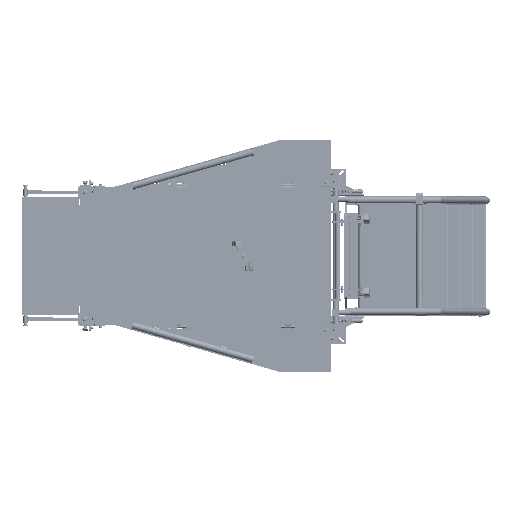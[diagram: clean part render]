
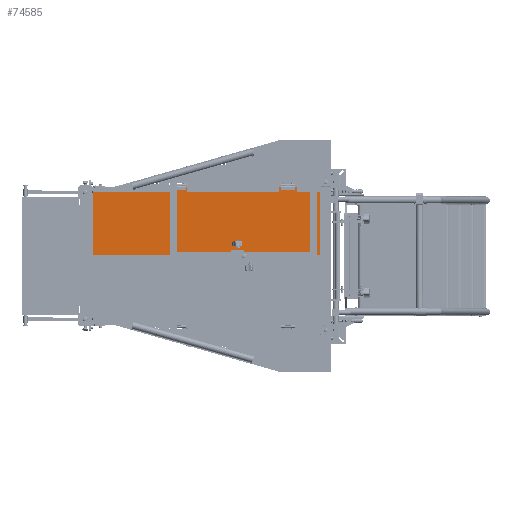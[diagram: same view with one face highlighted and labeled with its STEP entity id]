
A CAD part, top view. The second image highlights one B-rep face of the part: STEP entity #74585.
In plain terms, the highlighted planar face has unit normal (0, 0, 1).
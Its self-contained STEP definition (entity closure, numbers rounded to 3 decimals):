
#73994=CARTESIAN_POINT('',(-188.,191.,
5.));
#73995=DIRECTION('',(0.,0.,1.));
#73996=DIRECTION('',(-0.98,0.2,0.));
#73997=AXIS2_PLACEMENT_3D('',#73994,#73995,#73996);
#74002=CARTESIAN_POINT('',(-188.,192.,5.));
#74003=DIRECTION('',(0.,0.,1.));
#74004=DIRECTION('',(0.98,-0.2,0.));
#74005=AXIS2_PLACEMENT_3D('',#74002,#74003,#74004);
#74010=CARTESIAN_POINT('',(-140.,191.,
5.));
#74011=DIRECTION('',(0.,0.,1.));
#74012=DIRECTION('',(-0.98,0.2,0.));
#74013=AXIS2_PLACEMENT_3D('',#74010,#74011,#74012);
#74018=CARTESIAN_POINT('',(-140.,192.,5.));
#74019=DIRECTION('',(0.,0.,1.));
#74020=DIRECTION('',(0.98,-0.2,0.));
#74021=AXIS2_PLACEMENT_3D('',#74018,#74019,#74020);
#74026=CARTESIAN_POINT('',(498.5,191.,5.));
#74027=DIRECTION('',(0.,0.,1.));
#74028=DIRECTION('',(-0.98,0.2,0.));
#74029=AXIS2_PLACEMENT_3D('',#74026,#74027,#74028);
#74034=CARTESIAN_POINT('',(498.5,192.,5.));
#74035=DIRECTION('',(0.,0.,1.));
#74036=DIRECTION('',(0.98,-0.2,0.));
#74037=AXIS2_PLACEMENT_3D('',#74034,#74035,#74036);
#74042=CARTESIAN_POINT('',(450.5,191.,5.));
#74043=DIRECTION('',(0.,0.,1.));
#74044=DIRECTION('',(-0.98,0.2,0.));
#74045=AXIS2_PLACEMENT_3D('',#74042,#74043,#74044);
#74050=CARTESIAN_POINT('',(450.5,192.,5.));
#74051=DIRECTION('',(0.,0.,1.));
#74052=DIRECTION('',(0.98,-0.2,0.));
#74053=AXIS2_PLACEMENT_3D('',#74050,#74051,#74052);
#74065=DIRECTION('',(0.,1.,0.));
#74066=VECTOR('',#74065,372.);
#74067=CARTESIAN_POINT('',(-662.5,-198.5,5.));
#74068=LINE('',#74067,#74066);
#74079=DIRECTION('',(1.,0.,0.));
#74080=VECTOR('',#74079,448.5);
#74081=CARTESIAN_POINT('',(-662.5,173.5,5.));
#74082=LINE('',#74081,#74080);
#74093=DIRECTION('',(0.,1.,0.));
#74094=VECTOR('',#74093,25.);
#74095=CARTESIAN_POINT('',(-214.,173.5,5.));
#74096=LINE('',#74095,#74094);
#74107=DIRECTION('',(1.,0.,0.));
#74108=VECTOR('',#74107,100.);
#74109=CARTESIAN_POINT('',(-214.,198.5,5.));
#74110=LINE('',#74109,#74108);
#74121=DIRECTION('',(0.,-1.,0.));
#74122=VECTOR('',#74121,25.);
#74123=CARTESIAN_POINT('',(-114.,198.5,5.));
#74124=LINE('',#74123,#74122);
#74135=DIRECTION('',(1.,0.,0.));
#74136=VECTOR('',#74135,538.5);
#74137=CARTESIAN_POINT('',(-114.,173.5,5.));
#74138=LINE('',#74137,#74136);
#74149=DIRECTION('',(0.,1.,0.));
#74150=VECTOR('',#74149,25.);
#74151=CARTESIAN_POINT('',(424.5,173.5,5.));
#74152=LINE('',#74151,#74150);
#74163=DIRECTION('',(1.,0.,0.));
#74164=VECTOR('',#74163,100.);
#74165=CARTESIAN_POINT('',(424.5,198.5,5.));
#74166=LINE('',#74165,#74164);
#74177=DIRECTION('',(0.,-1.,0.));
#74178=VECTOR('',#74177,25.);
#74179=CARTESIAN_POINT('',(524.5,198.5,5.));
#74180=LINE('',#74179,#74178);
#74191=DIRECTION('',(1.,0.,0.));
#74192=VECTOR('',#74191,138.);
#74193=CARTESIAN_POINT('',(524.5,173.5,5.));
#74194=LINE('',#74193,#74192);
#74205=DIRECTION('',(0.,-1.,0.));
#74206=VECTOR('',#74205,372.);
#74207=CARTESIAN_POINT('',(662.5,173.5,5.));
#74208=LINE('',#74207,#74206);
#74219=DIRECTION('',(-1.,0.,0.));
#74220=VECTOR('',#74219,1325.);
#74221=CARTESIAN_POINT('',(662.5,-198.5,5.));
#74222=LINE('',#74221,#74220);
#74446=CARTESIAN_POINT('',(-190.449,191.5,
5.));
#74447=CARTESIAN_POINT('',(-185.551,191.5,
5.));
#74448=VERTEX_POINT('',#74446);
#74449=VERTEX_POINT('',#74447);
#74450=CARTESIAN_POINT('',(-142.449,191.5,5.));
#74451=CARTESIAN_POINT('',(-137.551,191.5,
5.));
#74452=VERTEX_POINT('',#74450);
#74453=VERTEX_POINT('',#74451);
#74454=CARTESIAN_POINT('',(496.051,191.5,5.));
#74455=CARTESIAN_POINT('',(500.949,191.5,5.));
#74456=VERTEX_POINT('',#74454);
#74457=VERTEX_POINT('',#74455);
#74458=CARTESIAN_POINT('',(-662.5,-198.5,5.));
#74459=CARTESIAN_POINT('',(-662.5,173.5,5.));
#74460=VERTEX_POINT('',#74458);
#74461=VERTEX_POINT('',#74459);
#74462=CARTESIAN_POINT('',(662.5,-198.5,5.));
#74463=VERTEX_POINT('',#74462);
#74464=CARTESIAN_POINT('',(662.5,173.5,5.));
#74465=VERTEX_POINT('',#74464);
#74466=CARTESIAN_POINT('',(524.5,173.5,5.));
#74467=VERTEX_POINT('',#74466);
#74468=CARTESIAN_POINT('',(524.5,198.5,5.));
#74469=VERTEX_POINT('',#74468);
#74470=CARTESIAN_POINT('',(424.5,198.5,5.));
#74471=VERTEX_POINT('',#74470);
#74472=CARTESIAN_POINT('',(424.5,173.5,5.));
#74473=VERTEX_POINT('',#74472);
#74474=CARTESIAN_POINT('',(-114.,173.5,5.));
#74475=VERTEX_POINT('',#74474);
#74476=CARTESIAN_POINT('',(-114.,198.5,5.));
#74477=VERTEX_POINT('',#74476);
#74478=CARTESIAN_POINT('',(-214.,198.5,5.));
#74479=VERTEX_POINT('',#74478);
#74480=CARTESIAN_POINT('',(-214.,173.5,5.));
#74481=VERTEX_POINT('',#74480);
#74482=CARTESIAN_POINT('',(448.051,191.5,5.));
#74483=CARTESIAN_POINT('',(452.949,191.5,5.));
#74484=VERTEX_POINT('',#74482);
#74485=VERTEX_POINT('',#74483);
#74530=CARTESIAN_POINT('',(0.,0.,5.));
#74531=DIRECTION('',(0.,0.,1.));
#74532=DIRECTION('',(1.,0.,0.));
#74533=AXIS2_PLACEMENT_3D('',#74530,#74531,#74532);
#74534=PLANE('',#74533);
#74536=ORIENTED_EDGE('',*,*,#74535,.T.);
#74538=ORIENTED_EDGE('',*,*,#74537,.T.);
#74540=ORIENTED_EDGE('',*,*,#74539,.T.);
#74542=ORIENTED_EDGE('',*,*,#74541,.T.);
#74544=ORIENTED_EDGE('',*,*,#74543,.T.);
#74546=ORIENTED_EDGE('',*,*,#74545,.T.);
#74548=ORIENTED_EDGE('',*,*,#74547,.T.);
#74550=ORIENTED_EDGE('',*,*,#74549,.T.);
#74552=ORIENTED_EDGE('',*,*,#74551,.T.);
#74554=ORIENTED_EDGE('',*,*,#74553,.T.);
#74556=ORIENTED_EDGE('',*,*,#74555,.T.);
#74558=ORIENTED_EDGE('',*,*,#74557,.T.);
#74559=EDGE_LOOP('',(#74536,#74538,#74540,#74542,#74544,#74546,#74548,#74550,
#74552,#74554,#74556,#74558));
#74560=FACE_OUTER_BOUND('',#74559,.F.);
#74562=ORIENTED_EDGE('',*,*,#74561,.T.);
#74564=ORIENTED_EDGE('',*,*,#74563,.T.);
#74565=EDGE_LOOP('',(#74562,#74564));
#74566=FACE_BOUND('',#74565,.F.);
#74568=ORIENTED_EDGE('',*,*,#74567,.T.);
#74570=ORIENTED_EDGE('',*,*,#74569,.T.);
#74571=EDGE_LOOP('',(#74568,#74570));
#74572=FACE_BOUND('',#74571,.F.);
#74574=ORIENTED_EDGE('',*,*,#74573,.T.);
#74576=ORIENTED_EDGE('',*,*,#74575,.T.);
#74577=EDGE_LOOP('',(#74574,#74576));
#74578=FACE_BOUND('',#74577,.F.);
#74580=ORIENTED_EDGE('',*,*,#74579,.T.);
#74582=ORIENTED_EDGE('',*,*,#74581,.T.);
#74583=EDGE_LOOP('',(#74580,#74582));
#74584=FACE_BOUND('',#74583,.F.);
#73998=CIRCLE('',#73997,2.5);
#74006=CIRCLE('',#74005,2.5);
#74014=CIRCLE('',#74013,2.5);
#74022=CIRCLE('',#74021,2.5);
#74030=CIRCLE('',#74029,2.5);
#74038=CIRCLE('',#74037,2.5);
#74046=CIRCLE('',#74045,2.5);
#74054=CIRCLE('',#74053,2.5);
#74535=EDGE_CURVE('',#74460,#74461,#74068,.T.);
#74537=EDGE_CURVE('',#74461,#74481,#74082,.T.);
#74539=EDGE_CURVE('',#74481,#74479,#74096,.T.);
#74541=EDGE_CURVE('',#74479,#74477,#74110,.T.);
#74543=EDGE_CURVE('',#74477,#74475,#74124,.T.);
#74545=EDGE_CURVE('',#74475,#74473,#74138,.T.);
#74547=EDGE_CURVE('',#74473,#74471,#74152,.T.);
#74549=EDGE_CURVE('',#74471,#74469,#74166,.T.);
#74551=EDGE_CURVE('',#74469,#74467,#74180,.T.);
#74553=EDGE_CURVE('',#74467,#74465,#74194,.T.);
#74555=EDGE_CURVE('',#74465,#74463,#74208,.T.);
#74557=EDGE_CURVE('',#74463,#74460,#74222,.T.);
#74561=EDGE_CURVE('',#74448,#74449,#73998,.T.);
#74563=EDGE_CURVE('',#74449,#74448,#74006,.T.);
#74567=EDGE_CURVE('',#74452,#74453,#74014,.T.);
#74569=EDGE_CURVE('',#74453,#74452,#74022,.T.);
#74573=EDGE_CURVE('',#74456,#74457,#74030,.T.);
#74575=EDGE_CURVE('',#74457,#74456,#74038,.T.);
#74579=EDGE_CURVE('',#74484,#74485,#74046,.T.);
#74581=EDGE_CURVE('',#74485,#74484,#74054,.T.);
#74585=ADVANCED_FACE('',(#74560,#74566,#74572,#74578,#74584),#74534,.T.);
